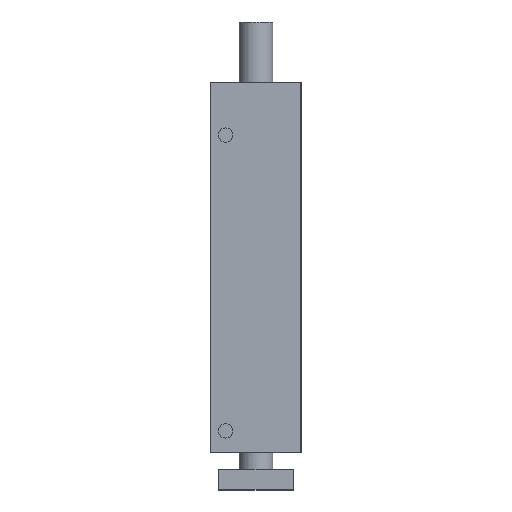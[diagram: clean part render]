
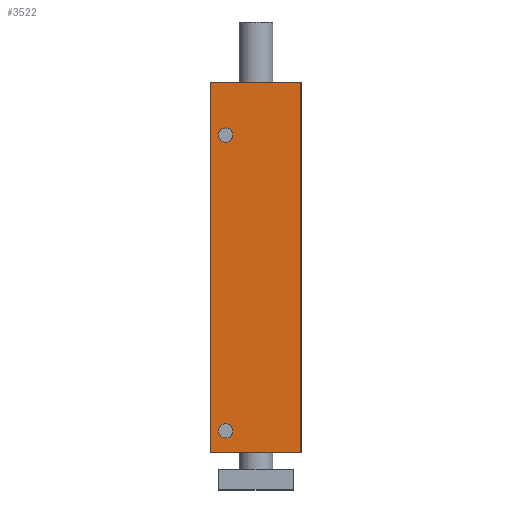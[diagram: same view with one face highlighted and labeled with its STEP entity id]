
A CAD part, front view. The second image highlights one B-rep face of the part: STEP entity #3522.
In plain terms, the highlighted planar face has unit normal (0, -1, 0).
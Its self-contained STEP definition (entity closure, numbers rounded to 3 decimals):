
#255=CARTESIAN_POINT('',(-27.0,-60.0,0.0));
#256=VERTEX_POINT('',#255);
#263=CARTESIAN_POINT('',(-27.0,-60.0,219.0));
#264=VERTEX_POINT('',#263);
#265=CARTESIAN_POINT('',(-27.0,-60.0,0.0));
#266=DIRECTION('',(0.0,0.0,1.0));
#267=VECTOR('',#266,219.0);
#268=LINE('',#265,#267);
#269=EDGE_CURVE('',#256,#264,#268,.T.);
#971=CARTESIAN_POINT('',(26.5,-60.0,0.0));
#972=VERTEX_POINT('',#971);
#979=CARTESIAN_POINT('',(-27.0,-60.0,0.0));
#980=DIRECTION('',(1.0,0.0,0.0));
#981=VECTOR('',#980,53.5);
#982=LINE('',#979,#981);
#983=EDGE_CURVE('',#256,#972,#982,.T.);
#2359=CARTESIAN_POINT('',(-13.717,-60.0,188.0));
#2360=VERTEX_POINT('',#2359);
#2361=CARTESIAN_POINT('',(-18.0,-60.0,188.0));
#2362=DIRECTION('',(0.0,1.0,0.0));
#2363=DIRECTION('',(1.0,0.0,0.0));
#2364=AXIS2_PLACEMENT_3D('',#2361,#2362,#2363);
#2365=CIRCLE('',#2364,4.283);
#2366=EDGE_CURVE('',#2360,#2360,#2365,.T.);
#2396=CARTESIAN_POINT('',(-13.717,-60.0,13.));
#2397=VERTEX_POINT('',#2396);
#2398=CARTESIAN_POINT('',(-18.0,-60.0,13.));
#2399=DIRECTION('',(0.0,1.0,0.0));
#2400=DIRECTION('',(1.0,0.0,0.0));
#2401=AXIS2_PLACEMENT_3D('',#2398,#2399,#2400);
#2402=CIRCLE('',#2401,4.283);
#2403=EDGE_CURVE('',#2397,#2397,#2402,.T.);
#3481=CARTESIAN_POINT('',(26.5,-60.0,219.0));
#3482=VERTEX_POINT('',#3481);
#3489=CARTESIAN_POINT('',(26.5,-60.0,0.0));
#3490=DIRECTION('',(0.0,0.0,1.0));
#3491=VECTOR('',#3490,219.0);
#3492=LINE('',#3489,#3491);
#3493=EDGE_CURVE('',#972,#3482,#3492,.T.);
#3500=CARTESIAN_POINT('',(26.5,-60.0,0.0));
#3501=DIRECTION('',(0.0,-1.0,0.0));
#3502=DIRECTION('',(0.0,0.0,-1.0));
#3503=AXIS2_PLACEMENT_3D('',#3500,#3501,#3502);
#3504=PLANE('',#3503);
#3505=CARTESIAN_POINT('',(26.5,-60.0,219.0));
#3506=DIRECTION('',(-1.0,0.0,0.0));
#3507=VECTOR('',#3506,53.5);
#3508=LINE('',#3505,#3507);
#3509=EDGE_CURVE('',#3482,#264,#3508,.T.);
#3510=ORIENTED_EDGE('',*,*,#3509,.T.);
#3511=ORIENTED_EDGE('',*,*,#269,.F.);
#3512=ORIENTED_EDGE('',*,*,#983,.T.);
#3513=ORIENTED_EDGE('',*,*,#3493,.T.);
#3514=EDGE_LOOP('',(#3510,#3511,#3512,#3513));
#3515=FACE_OUTER_BOUND('',#3514,.T.);
#3516=ORIENTED_EDGE('',*,*,#2366,.T.);
#3517=EDGE_LOOP('',(#3516));
#3518=FACE_BOUND('',#3517,.T.);
#3519=ORIENTED_EDGE('',*,*,#2403,.T.);
#3520=EDGE_LOOP('',(#3519));
#3521=FACE_BOUND('',#3520,.T.);
#3522=ADVANCED_FACE('',(#3515,#3518,#3521),#3504,.T.);
